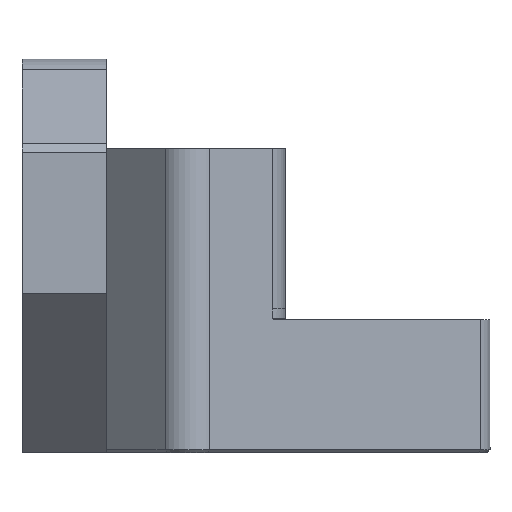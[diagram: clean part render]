
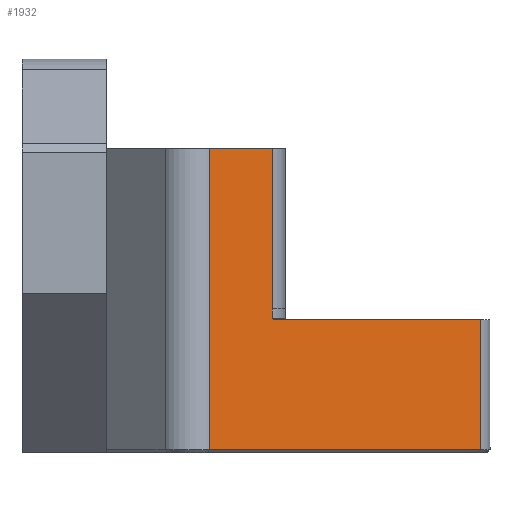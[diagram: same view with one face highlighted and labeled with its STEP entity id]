
A CAD part, left-side view. The second image highlights one B-rep face of the part: STEP entity #1932.
In plain terms, the highlighted planar face has unit normal (-0.707, -0.707, 0).
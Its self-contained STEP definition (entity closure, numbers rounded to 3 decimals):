
#265=FACE_OUTER_BOUND('',#385,.T.);
#385=EDGE_LOOP('',(#1666,#1667,#1668,#1669,#1670,#1671,#1672,#1673,#1674));
#481=LINE('',#2799,#655);
#503=LINE('',#3107,#677);
#530=LINE('',#3284,#704);
#534=LINE('',#3297,#708);
#544=LINE('',#3319,#718);
#573=LINE('',#3532,#747);
#574=LINE('',#3535,#748);
#575=LINE('',#3536,#749);
#576=LINE('',#3537,#750);
#655=VECTOR('',#2251,10.);
#677=VECTOR('',#2353,10.);
#704=VECTOR('',#2428,10.);
#708=VECTOR('',#2442,10.);
#718=VECTOR('',#2462,10.);
#747=VECTOR('',#2553,10.);
#748=VECTOR('',#2556,10.);
#749=VECTOR('',#2557,10.);
#750=VECTOR('',#2558,10.);
#826=VERTEX_POINT('',#2796);
#827=VERTEX_POINT('',#2798);
#864=VERTEX_POINT('',#3106);
#889=VERTEX_POINT('',#3283);
#893=VERTEX_POINT('',#3295);
#900=VERTEX_POINT('',#3318);
#933=VERTEX_POINT('',#3528);
#934=VERTEX_POINT('',#3530);
#935=VERTEX_POINT('',#3534);
#1029=EDGE_CURVE('',#826,#827,#481,.T.);
#1082=EDGE_CURVE('',#827,#864,#503,.T.);
#1125=EDGE_CURVE('',#864,#889,#530,.T.);
#1132=EDGE_CURVE('',#893,#889,#534,.T.);
#1143=EDGE_CURVE('',#900,#893,#544,.T.);
#1196=EDGE_CURVE('',#934,#933,#573,.T.);
#1197=EDGE_CURVE('',#933,#935,#574,.T.);
#1198=EDGE_CURVE('',#934,#900,#575,.F.);
#1199=EDGE_CURVE('',#935,#826,#576,.T.);
#1666=ORIENTED_EDGE('',*,*,#1197,.F.);
#1667=ORIENTED_EDGE('',*,*,#1196,.F.);
#1668=ORIENTED_EDGE('',*,*,#1198,.T.);
#1669=ORIENTED_EDGE('',*,*,#1143,.T.);
#1670=ORIENTED_EDGE('',*,*,#1132,.T.);
#1671=ORIENTED_EDGE('',*,*,#1125,.F.);
#1672=ORIENTED_EDGE('',*,*,#1082,.F.);
#1673=ORIENTED_EDGE('',*,*,#1029,.F.);
#1674=ORIENTED_EDGE('',*,*,#1199,.F.);
#1848=PLANE('',#2106);
#1932=ADVANCED_FACE('',(#265),#1848,.T.);
#2106=AXIS2_PLACEMENT_3D('',#3533,#2554,#2555);
#2251=DIRECTION('',(0.707,-0.707,0.));
#2353=DIRECTION('',(0.,0.,-1.));
#2428=DIRECTION('',(0.,0.,-1.));
#2442=DIRECTION('',(-0.707,0.707,0.));
#2462=DIRECTION('',(0.,0.,1.));
#2553=DIRECTION('',(0.,0.,-1.));
#2554=DIRECTION('center_axis',(-0.707,-0.707,0.));
#2555=DIRECTION('ref_axis',(0.707,-0.707,0.));
#2556=DIRECTION('',(-0.707,0.707,0.));
#2557=DIRECTION('',(0.707,-0.707,0.));
#2558=DIRECTION('',(0.,0.,1.));
#2796=CARTESIAN_POINT('',(4.55,44.522,-8.582));
#2798=CARTESIAN_POINT('',(8.775,40.298,-8.582));
#2799=CARTESIAN_POINT('',(10.867,38.206,-8.582));
#3106=CARTESIAN_POINT('',(8.775,40.298,-19.42));
#3107=CARTESIAN_POINT('',(8.775,40.298,-23.598));
#3283=CARTESIAN_POINT('',(8.775,40.298,-20.07));
#3284=CARTESIAN_POINT('',(8.775,40.298,-19.42));
#3295=CARTESIAN_POINT('',(8.88,40.192,-20.07));
#3297=CARTESIAN_POINT('',(6.651,42.421,-20.07));
#3318=CARTESIAN_POINT('',(8.88,40.192,-20.17));
#3319=CARTESIAN_POINT('',(8.88,40.192,-19.27));
#3528=CARTESIAN_POINT('',(22.898,26.174,-28.97));
#3530=CARTESIAN_POINT('',(22.898,26.174,-20.17));
#3532=CARTESIAN_POINT('',(22.898,26.174,-27.223));
#3533=CARTESIAN_POINT('Origin',(4.55,44.522,-28.87));
#3534=CARTESIAN_POINT('',(4.55,44.522,-28.97));
#3535=CARTESIAN_POINT('',(10.867,38.206,-28.97));
#3536=CARTESIAN_POINT('',(9.553,39.519,-20.17));
#3537=CARTESIAN_POINT('',(4.55,44.522,-17.82));
